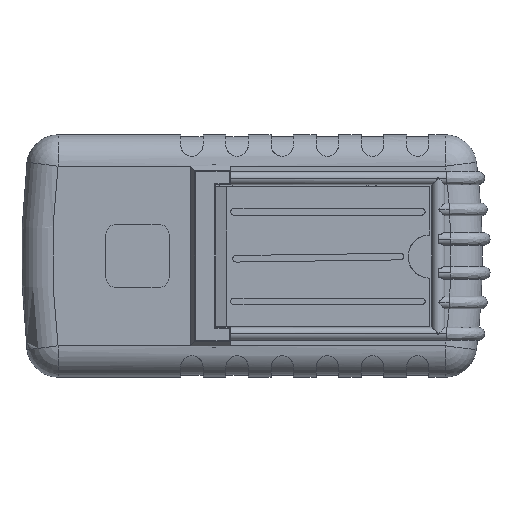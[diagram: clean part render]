
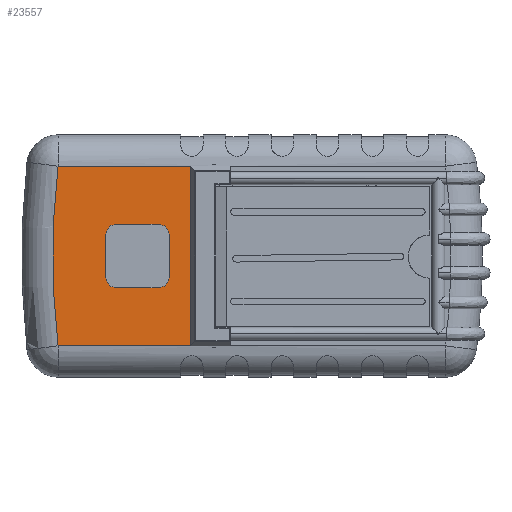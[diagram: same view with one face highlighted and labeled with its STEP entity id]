
A CAD part, front view. The second image highlights one B-rep face of the part: STEP entity #23557.
In plain terms, the highlighted planar face has unit normal (0, -1, 0).
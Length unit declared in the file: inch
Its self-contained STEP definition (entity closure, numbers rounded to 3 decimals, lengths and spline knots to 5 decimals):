
#231 = CARTESIAN_POINT ( 'NONE',  ( -1.55584, 0., -0.594 ) ) ;
#417 = AXIS2_PLACEMENT_3D ( 'NONE', #3748, #28121, #7280 ) ;
#472 = VERTEX_POINT ( 'NONE', #13426 ) ;
#943 = VERTEX_POINT ( 'NONE', #42549 ) ;
#1471 = EDGE_CURVE ( 'NONE', #36816, #5534, #35321, .T. ) ;
#2262 = CIRCLE ( 'NONE', #417, 0.188 ) ;
#2624 = ORIENTED_EDGE ( 'NONE', *, *, #15791, .F. ) ;
#3083 = CARTESIAN_POINT ( 'NONE',  ( -1.15584, 0., 1.6935 ) ) ;
#3278 = CARTESIAN_POINT ( 'NONE',  ( -3.64396, 0., 1.69045 ) ) ;
#3748 = CARTESIAN_POINT ( 'NONE',  ( -2.55584, 0., -0.406 ) ) ;
#4212 = VECTOR ( 'NONE', #21981, 39.37008 ) ;
#4351 = EDGE_CURVE ( 'NONE', #472, #36898, #32348, .T. ) ;
#4875 = DIRECTION ( 'NONE',  ( 0., 1., 0. ) ) ;
#5207 = EDGE_CURVE ( 'NONE', #24868, #28487, #29027, .T. ) ;
#5534 = VERTEX_POINT ( 'NONE', #3278 ) ;
#6918 = EDGE_LOOP ( 'NONE', ( #2624, #34833, #17370, #10303 ) ) ;
#7180 = AXIS2_PLACEMENT_3D ( 'NONE', #35391, #14610, #38838 ) ;
#7280 = DIRECTION ( 'NONE',  ( 0., 0., 1. ) ) ;
#7315 = CARTESIAN_POINT ( 'NONE',  ( -2.74384, 0., 0.406 ) ) ;
#9205 = CARTESIAN_POINT ( 'NONE',  ( 0., 0., -1.69045 ) ) ;
#9483 = VERTEX_POINT ( 'NONE', #39266 ) ;
#10303 = ORIENTED_EDGE ( 'NONE', *, *, #36894, .T. ) ;
#10971 = ORIENTED_EDGE ( 'NONE', *, *, #5207, .T. ) ;
#11528 = DIRECTION ( 'NONE',  ( 0., -1., 0. ) ) ;
#12347 = CARTESIAN_POINT ( 'NONE',  ( 0., 0., 1.69045 ) ) ;
#13426 = CARTESIAN_POINT ( 'NONE',  ( -1.55584, 0., 0.406 ) ) ;
#13656 = DIRECTION ( 'NONE',  ( 0., 0., -1. ) ) ;
#13701 = DIRECTION ( 'NONE',  ( 0., 1., 0. ) ) ;
#13825 = CIRCLE ( 'NONE', #29170, 0.188 ) ;
#14214 = ORIENTED_EDGE ( 'NONE', *, *, #40400, .T. ) ;
#14598 = VERTEX_POINT ( 'NONE', #22703 ) ;
#14610 = DIRECTION ( 'NONE',  ( 0., 1., 0. ) ) ;
#15681 = LINE ( 'NONE', #28881, #4212 ) ;
#15791 = EDGE_CURVE ( 'NONE', #36816, #943, #21764, .T. ) ;
#17110 = EDGE_CURVE ( 'NONE', #44676, #472, #42239, .T. ) ;
#17370 = ORIENTED_EDGE ( 'NONE', *, *, #28991, .T. ) ;
#17633 = FACE_OUTER_BOUND ( 'NONE', #6918, .T. ) ;
#17903 = VERTEX_POINT ( 'NONE', #29577 ) ;
#18036 = CIRCLE ( 'NONE', #20169, 0.188 ) ;
#18784 = PLANE ( 'NONE',  #42865 ) ;
#19058 = VECTOR ( 'NONE', #43056, 39.37008 ) ;
#19461 = DIRECTION ( 'NONE',  ( -1., 0., 0. ) ) ;
#20169 = AXIS2_PLACEMENT_3D ( 'NONE', #25754, #4875, #29252 ) ;
#20504 = EDGE_CURVE ( 'NONE', #36898, #24868, #13825, .T. ) ;
#21250 = LINE ( 'NONE', #39562, #19058 ) ;
#21764 = LINE ( 'NONE', #3083, #39120 ) ;
#21924 = EDGE_CURVE ( 'NONE', #24605, #14598, #18036, .T. ) ;
#21974 = CARTESIAN_POINT ( 'NONE',  ( 0., 0., 0. ) ) ;
#21981 = DIRECTION ( 'NONE',  ( 1., 0., 0. ) ) ;
#22090 = ORIENTED_EDGE ( 'NONE', *, *, #17110, .T. ) ;
#22289 = DIRECTION ( 'NONE',  ( 0., 0., 1. ) ) ;
#22703 = CARTESIAN_POINT ( 'NONE',  ( -2.55584, 0., 0.594 ) ) ;
#23557 = ADVANCED_FACE ( 'NONE', ( #44254, #17633 ), #18784, .F. ) ;
#24605 = VERTEX_POINT ( 'NONE', #7315 ) ;
#24831 = VECTOR ( 'NONE', #33491, 39.37008 ) ;
#24868 = VERTEX_POINT ( 'NONE', #44659 ) ;
#24983 = EDGE_CURVE ( 'NONE', #28487, #9483, #2262, .T. ) ;
#25754 = CARTESIAN_POINT ( 'NONE',  ( -2.55584, 0., 0.406 ) ) ;
#25921 = LINE ( 'NONE', #9205, #24831 ) ;
#26615 = AXIS2_PLACEMENT_3D ( 'NONE', #32309, #11528, #35784 ) ;
#28120 = DIRECTION ( 'NONE',  ( 0., 0., -1. ) ) ;
#28121 = DIRECTION ( 'NONE',  ( 0., 1., 0. ) ) ;
#28487 = VERTEX_POINT ( 'NONE', #39307 ) ;
#28826 = ORIENTED_EDGE ( 'NONE', *, *, #24983, .T. ) ;
#28881 = CARTESIAN_POINT ( 'NONE',  ( -2.74384, 0., 0.594 ) ) ;
#28991 = EDGE_CURVE ( 'NONE', #5534, #17903, #40010, .T. ) ;
#29027 = LINE ( 'NONE', #38559, #37096 ) ;
#29170 = AXIS2_PLACEMENT_3D ( 'NONE', #34455, #13701, #37929 ) ;
#29252 = DIRECTION ( 'NONE',  ( 0., 0., 1. ) ) ;
#29577 = CARTESIAN_POINT ( 'NONE',  ( -3.64396, 0., -1.69045 ) ) ;
#29676 = ORIENTED_EDGE ( 'NONE', *, *, #20504, .T. ) ;
#29885 = CARTESIAN_POINT ( 'NONE',  ( -1.55584, 0., -0.406 ) ) ;
#30985 = ORIENTED_EDGE ( 'NONE', *, *, #42052, .T. ) ;
#32309 = CARTESIAN_POINT ( 'NONE',  ( 9.85839, 0., 0. ) ) ;
#32348 = LINE ( 'NONE', #231, #38267 ) ;
#33491 = DIRECTION ( 'NONE',  ( 1., 0., 0. ) ) ;
#34455 = CARTESIAN_POINT ( 'NONE',  ( -1.74384, 0., -0.406 ) ) ;
#34833 = ORIENTED_EDGE ( 'NONE', *, *, #1471, .T. ) ;
#34924 = ORIENTED_EDGE ( 'NONE', *, *, #4351, .T. ) ;
#35137 = ORIENTED_EDGE ( 'NONE', *, *, #21924, .T. ) ;
#35321 = LINE ( 'NONE', #12347, #43455 ) ;
#35391 = CARTESIAN_POINT ( 'NONE',  ( -1.74384, 0., 0.406 ) ) ;
#35784 = DIRECTION ( 'NONE',  ( 0., 0., 1. ) ) ;
#35858 = DIRECTION ( 'NONE',  ( -1., 0., 0. ) ) ;
#36816 = VERTEX_POINT ( 'NONE', #43519 ) ;
#36894 = EDGE_CURVE ( 'NONE', #17903, #943, #25921, .T. ) ;
#36898 = VERTEX_POINT ( 'NONE', #29885 ) ;
#37096 = VECTOR ( 'NONE', #35858, 39.37008 ) ;
#37929 = DIRECTION ( 'NONE',  ( 0., 0., 1. ) ) ;
#38241 = CARTESIAN_POINT ( 'NONE',  ( -1.74384, 0., 0.594 ) ) ;
#38267 = VECTOR ( 'NONE', #28120, 39.37008 ) ;
#38559 = CARTESIAN_POINT ( 'NONE',  ( -2.74384, 0., -0.594 ) ) ;
#38838 = DIRECTION ( 'NONE',  ( 0., 0., 1. ) ) ;
#39120 = VECTOR ( 'NONE', #13656, 39.37008 ) ;
#39266 = CARTESIAN_POINT ( 'NONE',  ( -2.74384, 0., -0.406 ) ) ;
#39307 = CARTESIAN_POINT ( 'NONE',  ( -2.55584, 0., -0.594 ) ) ;
#39562 = CARTESIAN_POINT ( 'NONE',  ( -2.74384, 0., -0.594 ) ) ;
#40010 = CIRCLE ( 'NONE', #26615, 13.60776 ) ;
#40248 = EDGE_LOOP ( 'NONE', ( #34924, #29676, #10971, #28826, #14214, #35137, #30985, #22090 ) ) ;
#40400 = EDGE_CURVE ( 'NONE', #9483, #24605, #21250, .T. ) ;
#42052 = EDGE_CURVE ( 'NONE', #14598, #44676, #15681, .T. ) ;
#42239 = CIRCLE ( 'NONE', #7180, 0.188 ) ;
#42549 = CARTESIAN_POINT ( 'NONE',  ( -1.15584, 0., -1.69045 ) ) ;
#42865 = AXIS2_PLACEMENT_3D ( 'NONE', #21974, #43057, #22289 ) ;
#43057 = DIRECTION ( 'NONE',  ( 0., 1., 0. ) ) ;
#43056 = DIRECTION ( 'NONE',  ( 0., 0., 1. ) ) ;
#43455 = VECTOR ( 'NONE', #19461, 39.37008 ) ;
#43519 = CARTESIAN_POINT ( 'NONE',  ( -1.15584, 0., 1.69045 ) ) ;
#44254 = FACE_BOUND ( 'NONE', #40248, .T. ) ;
#44659 = CARTESIAN_POINT ( 'NONE',  ( -1.74384, 0., -0.594 ) ) ;
#44676 = VERTEX_POINT ( 'NONE', #38241 ) ;
